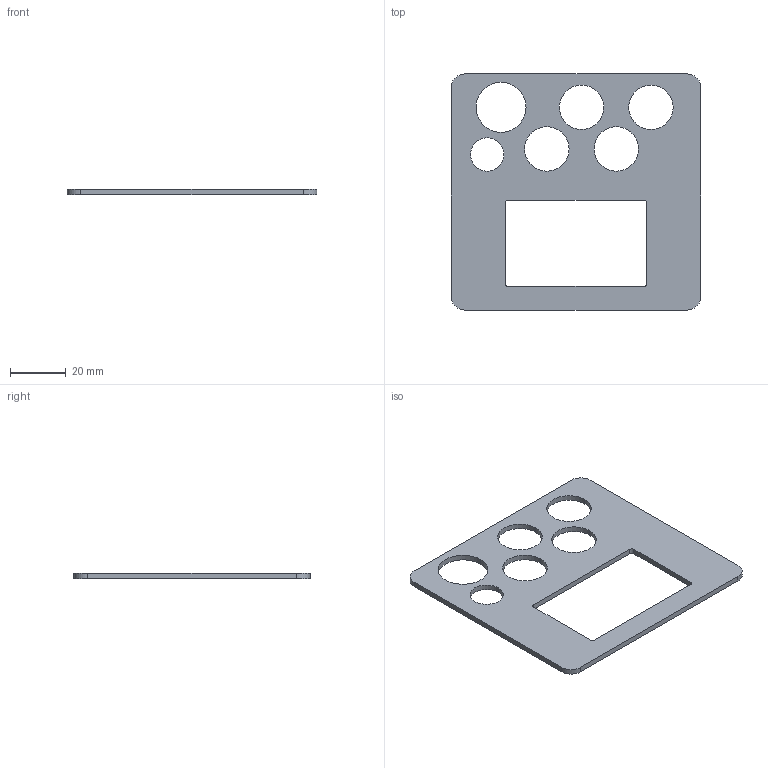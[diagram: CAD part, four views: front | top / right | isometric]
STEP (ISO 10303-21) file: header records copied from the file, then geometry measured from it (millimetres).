
FILE_DESCRIPTION (( 'STEP AP214' ), '1' );
FILE_NAME ('Çàäíÿÿ íàêëåéêà.STEP', '2021-11-10T11:30:01', ( 'j03075@gmail.com' ), ( '' ), 'SwSTEP 2.0', 'SolidWorks 2021', '' );
FILE_SCHEMA (( 'AUTOMOTIVE_DESIGN' ));
Length unit declared in the file: millimetre
Products named in the file (1): Çàäíÿÿ íàêëåéêà
Bounding box: 90 x 85 x 2.01 mm (x, y, z)
Volume: 9756.5 mm3; surface area: 11353.5 mm2
Topology: 1 solids, 1 shells, 40 faces, 108 edges, 72 vertices
Faces by surface type: cylinder 20, plane 20
Entity records: 1334 total; most frequent: DIRECTION 230, CARTESIAN_POINT 221, ORIENTED_EDGE 216, EDGE_CURVE 108, AXIS2_PLACEMENT_3D 81, VERTEX_POINT 72, LINE 68, VECTOR 68
